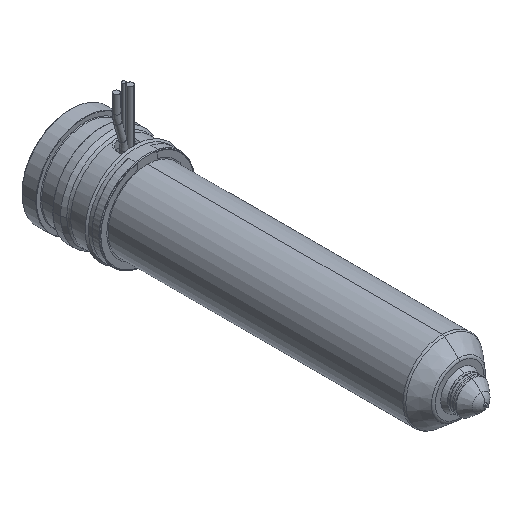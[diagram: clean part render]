
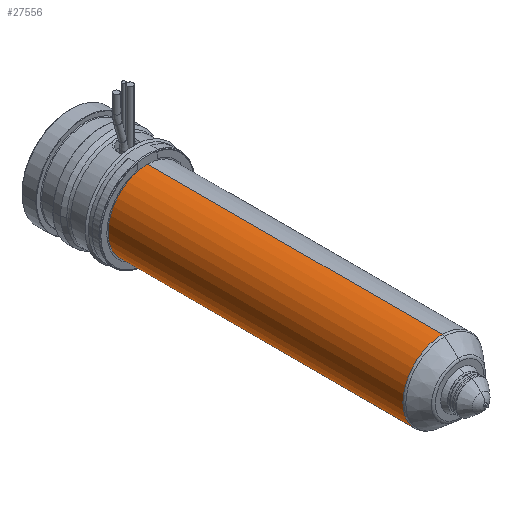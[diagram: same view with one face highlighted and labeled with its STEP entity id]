
A CAD part, isometric view. The second image highlights one B-rep face of the part: STEP entity #27556.
In plain terms, the highlighted cylindrical face has radius 12 mm (diameter 24 mm), a partial arc.
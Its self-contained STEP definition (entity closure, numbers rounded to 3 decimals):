
#26947=CARTESIAN_POINT('',(0.,-113.736,0.));
#26948=DIRECTION('',(0.,-1.,0.));
#26949=DIRECTION('',(0.,0.,1.));
#26950=AXIS2_PLACEMENT_3D('',#26947,#26948,#26949);
#26955=CARTESIAN_POINT('',(0.,-24.,0.));
#26956=DIRECTION('',(0.,1.,0.));
#26957=DIRECTION('',(0.,0.,-1.));
#26958=AXIS2_PLACEMENT_3D('',#26955,#26956,#26957);
#26963=DIRECTION('',(0.,1.,0.));
#26964=VECTOR('',#26963,89.736);
#26965=CARTESIAN_POINT('',(0.,-113.736,12.));
#26966=LINE('',#26965,#26964);
#26978=DIRECTION('',(0.,1.,0.));
#26979=VECTOR('',#26978,89.736);
#26980=CARTESIAN_POINT('',(0.,-113.736,-12.));
#26981=LINE('',#26980,#26979);
#27161=CARTESIAN_POINT('',(0.,-113.736,12.));
#27162=CARTESIAN_POINT('',(0.,-24.,12.));
#27163=VERTEX_POINT('',#27161);
#27164=VERTEX_POINT('',#27162);
#27165=CARTESIAN_POINT('',(0.,-113.736,-12.));
#27166=CARTESIAN_POINT('',(0.,-24.,-12.));
#27167=VERTEX_POINT('',#27165);
#27168=VERTEX_POINT('',#27166);
#27542=CARTESIAN_POINT('',(0.,-14.625,0.));
#27543=DIRECTION('',(0.,-1.,0.));
#27544=DIRECTION('',(0.,0.,1.));
#27545=AXIS2_PLACEMENT_3D('',#27542,#27543,#27544);
#27546=CYLINDRICAL_SURFACE('',#27545,12.);
#27548=ORIENTED_EDGE('',*,*,#27547,.F.);
#27549=ORIENTED_EDGE('',*,*,#27537,.T.);
#27551=ORIENTED_EDGE('',*,*,#27550,.T.);
#27553=ORIENTED_EDGE('',*,*,#27552,.T.);
#27554=EDGE_LOOP('',(#27548,#27549,#27551,#27553));
#27555=FACE_OUTER_BOUND('',#27554,.F.);
#27556=ADVANCED_FACE('',(#27555),#27546,.T.);
#26951=CIRCLE('',#26950,12.);
#26959=CIRCLE('',#26958,12.);
#27537=EDGE_CURVE('',#27163,#27167,#26951,.T.);
#27547=EDGE_CURVE('',#27163,#27164,#26966,.T.);
#27550=EDGE_CURVE('',#27167,#27168,#26981,.T.);
#27552=EDGE_CURVE('',#27168,#27164,#26959,.T.);
